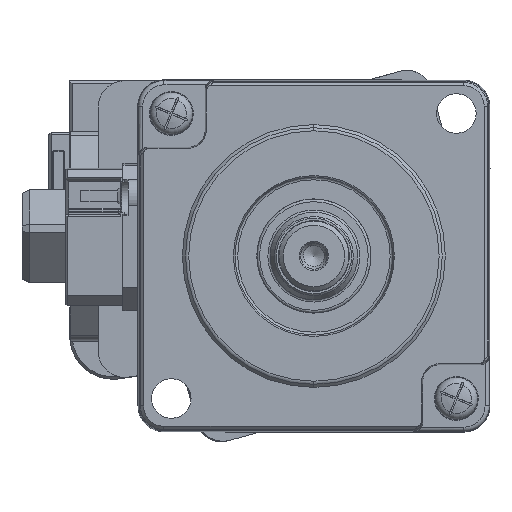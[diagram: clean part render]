
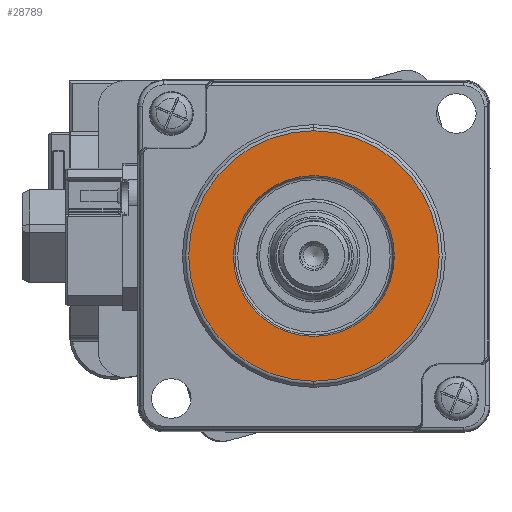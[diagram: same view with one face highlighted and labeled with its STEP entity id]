
A CAD part, left-side view. The second image highlights one B-rep face of the part: STEP entity #28789.
In plain terms, the highlighted planar face has unit normal (-1, 0, 0) as drawn and (0, 0, 1) by its records, which use the part's own axes.
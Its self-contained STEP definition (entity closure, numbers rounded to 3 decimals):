
#1017 = FACE_OUTER_BOUND ( 'NONE', #17180, .T. ) ;
#5365 = EDGE_CURVE ( 'NONE', #39836, #39836, #41048, .T. ) ;
#9046 = DIRECTION ( 'NONE',  ( 0., 0., 1. ) ) ;
#11293 = DIRECTION ( 'NONE',  ( 1., 0., 0. ) ) ;
#12453 = AXIS2_PLACEMENT_3D ( 'NONE', #30635, #46133, #11293 ) ;
#13127 = CARTESIAN_POINT ( 'NONE',  ( 0., 0., 20. ) ) ;
#15825 = ORIENTED_EDGE ( 'NONE', *, *, #5365, .T. ) ;
#15886 = AXIS2_PLACEMENT_3D ( 'NONE', #22695, #27506, #26758 ) ;
#16092 = CARTESIAN_POINT ( 'NONE',  ( 14.293, 0., 20. ) ) ;
#16592 = DIRECTION ( 'NONE',  ( 0., 0., 1. ) ) ;
#17180 = EDGE_LOOP ( 'NONE', ( #21606, #45724 ) ) ;
#17570 = CARTESIAN_POINT ( 'NONE',  ( -14.293, 0., 20. ) ) ;
#21606 = ORIENTED_EDGE ( 'NONE', *, *, #36823, .T. ) ;
#22695 = CARTESIAN_POINT ( 'NONE',  ( 0., 0., 20. ) ) ;
#24591 = DIRECTION ( 'NONE',  ( 1., 0., 0. ) ) ;
#26758 = DIRECTION ( 'NONE',  ( 0., 1., 0. ) ) ;
#27506 = DIRECTION ( 'NONE',  ( 0., 0., -1. ) ) ;
#28789 = ADVANCED_FACE ( 'NONE', ( #1017, #47589 ), #47100, .T. ) ;
#30635 = CARTESIAN_POINT ( 'NONE',  ( 0., 0., 20. ) ) ;
#32106 = DIRECTION ( 'NONE',  ( -1., 0., 0. ) ) ;
#33562 = CIRCLE ( 'NONE', #12453, 14.293 ) ;
#33890 = AXIS2_PLACEMENT_3D ( 'NONE', #39474, #16592, #32106 ) ;
#36009 = AXIS2_PLACEMENT_3D ( 'NONE', #13127, #9046, #24591 ) ;
#36047 = EDGE_LOOP ( 'NONE', ( #15825 ) ) ;
#36823 = EDGE_CURVE ( 'NONE', #49400, #41660, #49804, .T. ) ;
#37111 = EDGE_CURVE ( 'NONE', #41660, #49400, #33562, .T. ) ;
#39474 = CARTESIAN_POINT ( 'NONE',  ( 0., 0., 20. ) ) ;
#39836 = VERTEX_POINT ( 'NONE', #43115 ) ;
#41048 = CIRCLE ( 'NONE', #15886, 9.182 ) ;
#41660 = VERTEX_POINT ( 'NONE', #17570 ) ;
#43115 = CARTESIAN_POINT ( 'NONE',  ( 0., 9.182, 20. ) ) ;
#45724 = ORIENTED_EDGE ( 'NONE', *, *, #37111, .T. ) ;
#46133 = DIRECTION ( 'NONE',  ( 0., 0., 1. ) ) ;
#47100 = PLANE ( 'NONE',  #33890 ) ;
#47589 = FACE_BOUND ( 'NONE', #36047, .T. ) ;
#49400 = VERTEX_POINT ( 'NONE', #16092 ) ;
#49804 = CIRCLE ( 'NONE', #36009, 14.293 ) ;
